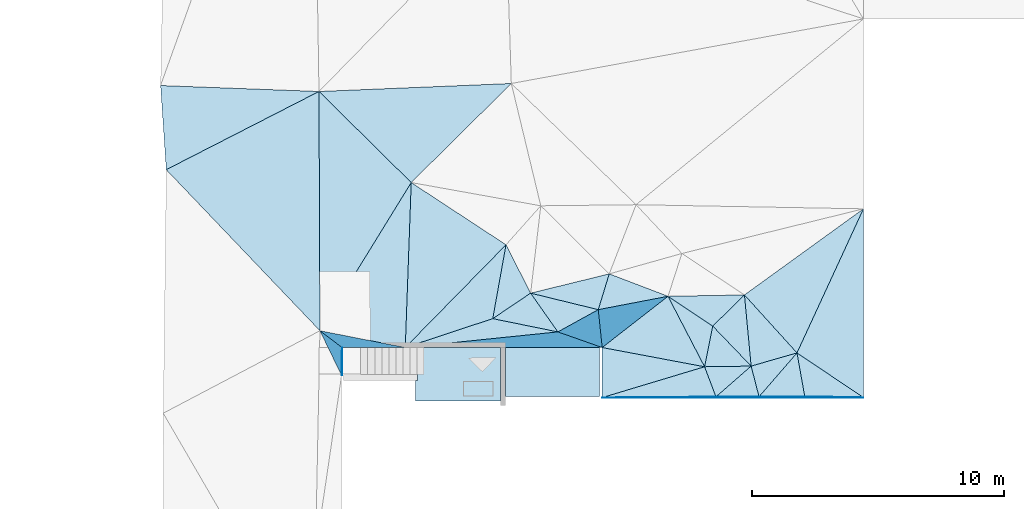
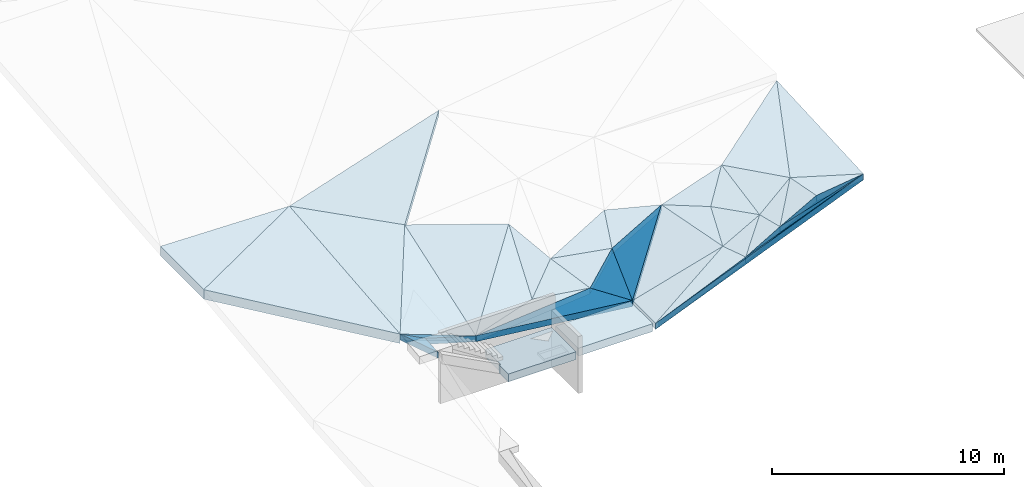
# One storey, part 3 of 23: 39 slabs, 2 elements without a shape of their own.
"""IFC2X3 building model written with IfcOpenShell, lengths in metres."""

from ifc_helpers import new_model, entity, si_unit, converted_unit, direction, frame, origin, place, context, subcontext, project, spatial, polyline, outline, extrude, material, layer, layer_set, layer_usage, type_object, element, aggregate, save


model = new_model("IFC2X3")

# Units and contexts
model_context = context("Model", 3, precision=1e-05, world=origin(), true_north=direction((0.7716245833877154, 0.6360782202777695)))
body_context = subcontext(model_context, "Body", "Model", "MODEL_VIEW")
ifc_project = project(units=[si_unit("LENGTHUNIT", "METRE"), converted_unit("PLANEANGLEUNIT", "DEGREE", entity("IfcPlaneAngleMeasure", 0.017453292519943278), si_unit("PLANEANGLEUNIT", "RADIAN"), dimensions=[0, 0, 0, 0, 0, 0, 0]), si_unit("AREAUNIT", "SQUARE_METRE")], contexts=[model_context])

# Site, building, storey
site_placement = place(None, origin())
site = spatial("IfcSite", under=ifc_project, at=site_placement, Name="Default", CompositionType="ELEMENT")
building_placement = place(site_placement, origin())
building = spatial("IfcBuilding", under=site, at=building_placement, Name="<Building Name>", CompositionType="ELEMENT")
storey_placement = place(building_placement, origin())
storey = spatial("IfcBuildingStorey", under=building, at=storey_placement, Name="00 - HAV", CompositionType="ELEMENT", Elevation=0.0)

# Slabs
slab_1_placement = place(storey_placement, frame((222.4392111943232, 65.35219263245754, 32.77999999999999)))
slab_1 = element("IfcSlab", 1, at=slab_1_placement, inside=storey, Name="Floor:771 Grøntarealer", ObjectType="Floor:771 Grøntarealer", PredefinedType="NOTDEFINED")
ifc_material_1 = material(Name="815 - Terrain, Grøntareal")
ifc_layer_1 = layer(ifc_material_1, 0.02)
ifc_material_2 = material(Name="Site - Soil - Jordlag")
ifc_layer_2 = layer(ifc_material_2, 0.30000000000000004)
ifc_layer_set_1 = layer_set([ifc_layer_1, ifc_layer_2], Name="Floor:771 Grøntarealer")
slab_type_1 = type_object("IfcSlabType", Name="Floor:771 Grøntarealer", PredefinedType="NOTDEFINED")
slab_2_placement = place(slab_1_placement, origin())
slab_2 = element("IfcSlab", 2, at=slab_2_placement, type_object=slab_type_1, material=ifc_layer_set_1, Name="Floor:771 Grøntarealer", ObjectType="Floor:771 Grøntarealer", PredefinedType="NOTDEFINED", context=body_context, shape_type="SweptSolid", body=[
    extrude(outline(polyline([(-0.009645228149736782, -0.5543469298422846), (0.009645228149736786, -0.5543066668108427), (0.009645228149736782, 0.5543469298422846), (-0.009645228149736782, -0.5543469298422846)])), frame((1.1743909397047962, 7.576217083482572, 1.9150000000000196), z_axis=(9.422805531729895e-05, -0.045099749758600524, 0.9989824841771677), x_axis=(0.9999999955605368, 4.249661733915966e-06, -9.413217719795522e-05)), (9.413217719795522e-05, -0.045099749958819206, -0.9989824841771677), 0.3200000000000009),
])
slab_3_placement = place(slab_1_placement, origin())
slab_3 = element("IfcSlab", 3, at=slab_3_placement, type_object=slab_type_1, material=ifc_layer_set_1, Name="Floor:771 Grøntarealer", ObjectType="Floor:771 Grøntarealer", PredefinedType="NOTDEFINED", context=body_context, shape_type="SweptSolid", body=[
    extrude(outline(polyline([(0.431589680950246, -0.8896618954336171), (0.4510015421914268, 0.2190298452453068), (-0.43158968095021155, 0.8896618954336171), (0.431589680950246, -0.8896618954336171)])), frame((0.7358552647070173, 7.908843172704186, 1.9800000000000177), z_axis=(0.11166566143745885, -0.04675689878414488, 0.9926452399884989), x_axis=(0.9937458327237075, 0.0052539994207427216, -0.11154198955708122)), (0.11154198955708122, -0.04705116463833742, -0.9926452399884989), 0.3200000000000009),
])
slab_4_placement = place(slab_1_placement, origin())
slab_4 = element("IfcSlab", 4, at=slab_4_placement, type_object=slab_type_1, material=ifc_layer_set_1, Name="Floor:771 Grøntarealer", ObjectType="Floor:771 Grøntarealer", PredefinedType="NOTDEFINED", context=body_context, shape_type="SweptSolid", body=[
    extrude(outline(polyline([(1.3362653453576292, -3.748541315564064), (1.3365278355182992, 3.748447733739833), (-1.3364665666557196, -1.9985459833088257), (1.3362653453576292, -3.748541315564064)])), frame((20.553473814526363, 9.900695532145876, 4.543739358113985), z_axis=(-0.16506100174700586, -0.05104596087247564, 0.9849615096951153), x_axis=(0.986283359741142, -0.00854287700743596, 0.16483978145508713)), (-0.16483978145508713, -0.051755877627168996, -0.9849615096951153), 0.3200000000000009),
])
slab_5_placement = place(slab_1_placement, origin())
slab_5 = element("IfcSlab", 5, at=slab_5_placement, type_object=slab_type_1, material=ifc_layer_set_1, Name="Floor:771 Grøntarealer", ObjectType="Floor:771 Grøntarealer", PredefinedType="NOTDEFINED", context=body_context, shape_type="SweptSolid", body=[
    extrude(outline(polyline([(2.0714500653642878, 0.6731520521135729), (-0.2566398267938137, 0.3258116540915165), (-2.0714500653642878, -0.6731520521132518), (2.0714500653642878, 0.6731520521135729)])), frame((19.800628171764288, 6.162385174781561, 3.8950000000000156), z_axis=(-0.025396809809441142, -0.9982539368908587, 0.05332991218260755), x_axis=(0.9996774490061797, -0.0253606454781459, 0.0013548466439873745)), (-0.0013548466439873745, -0.9985760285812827, -0.05332991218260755), 0.3200000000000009),
])
slab_6_placement = place(slab_1_placement, origin())
slab_6 = element("IfcSlab", 6, at=slab_6_placement, type_object=slab_type_1, material=ifc_layer_set_1, Name="Floor:771 Grøntarealer", ObjectType="Floor:771 Grøntarealer", PredefinedType="NOTDEFINED", context=body_context, shape_type="SweptSolid", body=[
    extrude(outline(polyline([(2.9262151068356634, 1.1733901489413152), (-1.2163125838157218, -0.17405950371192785), (-2.926215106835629, -1.1733901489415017), (2.9262151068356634, 1.1733901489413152)])), frame((18.945875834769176, 6.160032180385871, 3.3950000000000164), z_axis=(-0.02157064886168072, -0.9989024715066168, 0.04157594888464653), x_axis=(0.9997673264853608, -0.021551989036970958, 0.000897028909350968)), (-0.000897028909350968, -0.9991349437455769, -0.04157594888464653), 0.3200000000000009),
])
slab_7_placement = place(slab_1_placement, origin())
slab_7 = element("IfcSlab", 7, at=slab_7_placement, type_object=slab_type_1, material=ifc_layer_set_1, Name="Floor:771 Grøntarealer", ObjectType="Floor:771 Grøntarealer", PredefinedType="NOTDEFINED", context=body_context, shape_type="SweptSolid", body=[
    extrude(outline(polyline([(5.298450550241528, 1.816489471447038), (-0.6836069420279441, -0.17682568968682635), (-5.2984505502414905, -1.8164894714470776), (5.298450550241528, 1.816489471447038)])), frame((16.68897959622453, 6.144569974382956, 2.445000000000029), z_axis=(-0.2081213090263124, -0.83581550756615, 0.5080334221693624), x_axis=(0.9781030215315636, -0.17784529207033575, 0.10809963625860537)), (-0.10809963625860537, -0.8545270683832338, -0.5080334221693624), 0.3200000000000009),
])
slab_8_placement = place(slab_1_placement, origin())
slab_8 = element("IfcSlab", 8, at=slab_8_placement, type_object=slab_type_1, material=ifc_layer_set_1, Name="Floor:771 Grøntarealer", ObjectType="Floor:771 Grøntarealer", PredefinedType="NOTDEFINED", context=body_context, shape_type="SweptSolid", body=[
    extrude(outline(polyline([(1.6831404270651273, -0.34988578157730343), (-0.9827351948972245, 1.410536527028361), (-0.6705124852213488, -0.31880738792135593), (1.6831404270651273, -0.34988578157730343)])), frame((20.207087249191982, 6.5022760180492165, 4.3285265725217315), z_axis=(-0.14911438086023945, -0.02661108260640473, 0.988461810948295), x_axis=(0.9888199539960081, -0.004012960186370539, 0.14906037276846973)), (-0.14906037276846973, -0.026911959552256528, -0.988461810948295), 0.3200000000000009),
])
slab_9_placement = place(slab_1_placement, origin())
slab_9 = element("IfcSlab", 9, at=slab_9_placement, type_object=slab_type_1, material=ifc_layer_set_1, Name="Floor:771 Grøntarealer", ObjectType="Floor:771 Grøntarealer", PredefinedType="NOTDEFINED", context=body_context, shape_type="SweptSolid", body=[
    extrude(outline(polyline([(1.46041155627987, 2.9789931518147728), (-3.281778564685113, -0.48696156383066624), (-1.1875603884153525, -2.7795726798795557), (1.46041155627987, 2.9789931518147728)])), frame((20.41767825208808, 10.676215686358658, 4.567795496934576), z_axis=(-0.09366882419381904, -0.08487680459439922, 0.9919788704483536), x_axis=(0.9956034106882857, -0.007985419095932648, 0.09332781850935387)), (-0.09332781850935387, -0.08525162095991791, -0.9919788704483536), 0.3200000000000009),
])
slab_10_placement = place(slab_1_placement, origin())
slab_10 = element("IfcSlab", 10, at=slab_10_placement, type_object=slab_type_1, material=ifc_layer_set_1, Name="Floor:771 Grøntarealer", ObjectType="Floor:771 Grøntarealer", PredefinedType="NOTDEFINED", context=body_context, shape_type="SweptSolid", body=[
    extrude(outline(polyline([(3.716813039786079, 2.404010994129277), (-4.1742767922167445, 1.4728819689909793), (-0.38988620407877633, -2.01144188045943), (3.716813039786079, 2.404010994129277)])), frame((4.306218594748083, 16.574037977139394, 3.664973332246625), z_axis=(-0.2543766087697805, -0.27727676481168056, 0.9265042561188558), x_axis=(0.9671052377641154, -0.0729317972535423, 0.24369737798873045)), (-0.24369737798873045, -0.2867079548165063, -0.9265042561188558), 0.32000000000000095),
])
slab_11_placement = place(slab_1_placement, origin())
slab_11 = element("IfcSlab", 11, at=slab_11_placement, type_object=slab_type_1, material=ifc_layer_set_1, Name="Floor:771 Grøntarealer", ObjectType="Floor:771 Grøntarealer", PredefinedType="NOTDEFINED", context=body_context, shape_type="SweptSolid", body=[
    extrude(outline(polyline([(-1.8479828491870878, 4.766144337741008), (-1.8101422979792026, -4.78064402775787), (1.8244774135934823, 1.164039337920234), (-1.8479828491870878, 4.766144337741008)])), frame((2.1109181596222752, 13.53371857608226, 2.7210460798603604), z_axis=(-0.08262201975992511, -0.10471369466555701, 0.9910643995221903), x_axis=(0.9965809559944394, -0.008681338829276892, 0.08216466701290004)), (-0.08216466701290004, -0.10507294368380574, -0.9910643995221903), 0.3200000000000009),
])
slab_12_placement = place(slab_1_placement, origin())
slab_12 = element("IfcSlab", 12, at=slab_12_placement, type_object=slab_type_1, material=ifc_layer_set_1, Name="Floor:771 Grøntarealer", ObjectType="Floor:771 Grøntarealer", PredefinedType="NOTDEFINED", context=body_context, shape_type="SweptSolid", body=[
    extrude(outline(polyline([(-1.762563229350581, 0.24395655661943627), (-0.8494588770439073, -0.3844979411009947), (1.762563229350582, -0.243956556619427), (-1.762563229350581, 0.24395655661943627)])), frame((1.9999736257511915, 8.462626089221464, 1.6350000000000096), z_axis=(0.27814908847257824, 0.18242611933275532, 0.9430555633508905), x_axis=(0.9605379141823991, -0.0528262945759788, -0.27308661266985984)), (0.27308661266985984, 0.18992078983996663, -0.9430555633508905), 0.3200000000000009),
])
slab_13_placement = place(slab_1_placement, origin())
slab_13 = element("IfcSlab", 13, at=slab_13_placement, type_object=slab_type_1, material=ifc_layer_set_1, Name="Floor:771 Grøntarealer", ObjectType="Floor:771 Grøntarealer", PredefinedType="NOTDEFINED", context=body_context, shape_type="SweptSolid", body=[
    extrude(outline(polyline([(-2.541436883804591, -2.778401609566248), (0.9078069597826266, -3.654354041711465), (1.1483921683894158, 3.132172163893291), (-2.541436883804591, -2.778401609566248)])), frame((2.801815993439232, 11.60102626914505, 2.3559480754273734), z_axis=(0.19059096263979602, -0.2657800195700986, 0.9450058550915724), x_axis=(0.9816695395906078, 0.05160114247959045, -0.18347271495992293)), (0.18347271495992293, -0.27074286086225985, -0.9450058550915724), 0.3200000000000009),
])
slab_14_placement = place(slab_1_placement, origin())
slab_14 = element("IfcSlab", 14, at=slab_14_placement, type_object=slab_type_1, material=ifc_layer_set_1, Name="Floor:771 Grøntarealer", ObjectType="Floor:771 Grøntarealer", PredefinedType="NOTDEFINED", context=body_context, shape_type="SweptSolid", body=[
    extrude(outline(polyline([(1.1792845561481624, -0.655676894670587), (0.8272103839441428, 1.0659958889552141), (-0.8896348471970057, -0.7607349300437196), (1.1792845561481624, -0.655676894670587)])), frame((18.50996251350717, 6.894260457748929, 3.720000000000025), z_axis=(-0.4806821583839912, -0.08578295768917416, 0.8726889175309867), x_axis=(0.8768948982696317, -0.047023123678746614, 0.47837659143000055)), (-0.47837659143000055, -0.09782581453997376, -0.8726889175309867), 0.3200000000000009),
])
slab_15_placement = place(slab_1_placement, origin())
slab_15 = element("IfcSlab", 15, at=slab_15_placement, type_object=slab_type_1, material=ifc_layer_set_1, Name="Floor:771 Grøntarealer", ObjectType="Floor:771 Grøntarealer", PredefinedType="NOTDEFINED", context=body_context, shape_type="SweptSolid", body=[
    extrude(outline(polyline([(-0.4483716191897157, -1.2870652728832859), (1.2397250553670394, 0.5662648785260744), (-0.8001206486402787, -0.0836313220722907), (-0.4483716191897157, -1.2870652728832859)])), frame((18.129716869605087, 7.428379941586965, 3.589792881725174), z_axis=(-0.45237354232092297, -0.11690299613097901, 0.8841333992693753), x_axis=(0.8918285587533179, -0.059298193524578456, 0.44847022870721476)), (-0.44847022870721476, -0.13108236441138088, -0.8841333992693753), 0.3200000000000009),
])
slab_16_placement = place(slab_1_placement, origin())
slab_16 = element("IfcSlab", 16, at=slab_16_placement, type_object=slab_type_1, material=ifc_layer_set_1, Name="Floor:771 Grøntarealer", ObjectType="Floor:771 Grøntarealer", PredefinedType="NOTDEFINED", context=body_context, shape_type="SweptSolid", body=[
    extrude(outline(polyline([(1.1072771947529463, -0.3205811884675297), (0.7449472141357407, 0.8797094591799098), (-0.8672370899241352, -0.4745997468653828), (1.1072771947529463, -0.3205811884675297)])), frame((16.771182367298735, 6.578755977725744, 2.72000000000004), z_axis=(-0.5004163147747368, -0.12931827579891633, 0.8560725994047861), x_axis=(0.8657849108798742, -0.07474486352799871, 0.4948026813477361)), (-0.4948026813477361, -0.1493653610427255, -0.8560725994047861), 0.32000000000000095),
])
slab_17_placement = place(slab_1_placement, origin())
slab_17 = element("IfcSlab", 17, at=slab_17_placement, type_object=slab_type_1, material=ifc_layer_set_1, Name="Floor:771 Grøntarealer", ObjectType="Floor:771 Grøntarealer", PredefinedType="NOTDEFINED", context=body_context, shape_type="SweptSolid", body=[
    extrude(outline(polyline([(2.443207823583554, 0.16448477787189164), (1.9544702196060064, 1.3414871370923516), (-2.443207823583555, -0.1644847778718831), (2.443207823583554, 0.16448477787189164)])), frame((13.763445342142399, 6.1588395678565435, 1.270000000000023), z_axis=(-0.3830127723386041, -0.14509036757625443, 0.9122773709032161), x_axis=(0.9237430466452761, -0.06015900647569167, 0.3782587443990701)), (-0.3782587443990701, -0.15706788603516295, -0.9122773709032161), 0.32000000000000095),
])
slab_18_placement = place(slab_1_placement, origin())
slab_18 = element("IfcSlab", 18, at=slab_18_placement, type_object=slab_type_1, material=ifc_layer_set_1, Name="Floor:771 Grøntarealer", ObjectType="Floor:771 Grøntarealer", PredefinedType="NOTDEFINED", context=body_context, shape_type="SweptSolid", body=[
    extrude(outline(polyline([(-0.3875034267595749, -1.1515617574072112), (1.1906056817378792, 0.2423045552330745), (-0.8979370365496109, 0.016195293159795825), (-0.3875034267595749, -1.1515617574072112)])), frame((16.36308034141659, 7.266507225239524, 2.6272723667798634), z_axis=(-0.46657942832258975, -0.17674653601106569, 0.86663965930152), x_axis=(0.8844793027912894, -0.09323711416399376, 0.4571686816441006)), (-0.4571686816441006, -0.19983117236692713, -0.86663965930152), 0.3200000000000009),
])
slab_19_placement = place(slab_1_placement, origin())
slab_19 = element("IfcSlab", 19, at=slab_19_placement, type_object=slab_type_1, material=ifc_layer_set_1, Name="Floor:771 Grøntarealer", ObjectType="Floor:771 Grøntarealer", PredefinedType="NOTDEFINED", context=body_context, shape_type="SweptSolid", body=[
    extrude(outline(polyline([(-2.0340441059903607, -2.243530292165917), (1.4984209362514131, -1.3036212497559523), (2.0340441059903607, 2.243530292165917), (-2.0340441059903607, -2.243530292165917)])), frame((5.691646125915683, 10.168628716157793, 2.210000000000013), z_axis=(0.18570323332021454, -0.5763414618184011, 0.7958296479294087), x_axis=(0.9826058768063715, 0.10892309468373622, -0.1504042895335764)), (0.1504042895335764, -0.5865438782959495, -0.7958296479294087), 0.3200000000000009),
])
slab_20_placement = place(slab_1_placement, origin())
slab_20 = element("IfcSlab", 20, at=slab_20_placement, type_object=slab_type_1, material=ifc_layer_set_1, Name="Floor:771 Grøntarealer", ObjectType="Floor:771 Grøntarealer", PredefinedType="NOTDEFINED", context=body_context, shape_type="SweptSolid", body=[
    extrude(outline(polyline([(-0.4243842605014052, -3.723202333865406), (3.6743445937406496, 0.7358868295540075), (-0.18221795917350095, 3.0632676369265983), (-0.4243842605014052, -3.723202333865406)])), frame((4.106867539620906, 11.704449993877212, 2.246108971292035), z_axis=(-0.22105975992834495, -0.25026815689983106, 0.9426019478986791), x_axis=(0.9752602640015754, -0.05672764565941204, 0.21365718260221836)), (-0.21365718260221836, -0.2566167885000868, -0.9426019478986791), 0.3200000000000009),
])
slab_21_placement = place(slab_1_placement, origin())
slab_21 = element("IfcSlab", 21, at=slab_21_placement, type_object=slab_type_1, material=ifc_layer_set_1, Name="Floor:771 Grøntarealer", ObjectType="Floor:771 Grøntarealer", PredefinedType="NOTDEFINED", context=body_context, shape_type="SweptSolid", body=[
    extrude(outline(polyline([(-2.986760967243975, -0.7011529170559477), (3.0668727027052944, -0.08153719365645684), (0.48426834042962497, 0.4450119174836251), (-2.986760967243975, -0.7011529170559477)])), frame((6.679736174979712, 8.831041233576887, 1.2141338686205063), z_axis=(-0.0021996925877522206, -0.010788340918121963, 0.9999393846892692), x_axis=(0.9999975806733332, -2.373109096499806e-05, 0.002199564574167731)), (-0.002199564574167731, -0.010788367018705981, -0.9999393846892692), 0.3200000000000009),
])
slab_22_placement = place(slab_1_placement, origin())
slab_22 = element("IfcSlab", 22, at=slab_22_placement, type_object=slab_type_1, material=ifc_layer_set_1, Name="Floor:771 Grøntarealer", ObjectType="Floor:771 Grøntarealer", PredefinedType="NOTDEFINED", context=body_context, shape_type="SweptSolid", body=[
    extrude(outline(polyline([(-3.9567511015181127, -0.13485501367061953), (3.878486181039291, -0.7946131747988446), (2.113657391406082, 0.2900508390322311), (-3.9567511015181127, -0.13485501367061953)])), frame((7.638789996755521, 8.439718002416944, 1.106498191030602), z_axis=(0.0743231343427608, -0.7476516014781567, 0.6599190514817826), x_axis=(0.997234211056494, 0.05572192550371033, -0.04918328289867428)), (0.04918328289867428, -0.7497251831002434, -0.6599190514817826), 0.3200000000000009),
])
slab_23_placement = place(slab_1_placement, origin())
slab_23 = element("IfcSlab", 23, at=slab_23_placement, type_object=slab_type_1, material=ifc_layer_set_1, Name="Floor:771 Grøntarealer", ObjectType="Floor:771 Grøntarealer", PredefinedType="NOTDEFINED", context=body_context, shape_type="SweptSolid", body=[
    extrude(outline(polyline([(-0.2682349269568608, -1.7735117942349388), (1.2634911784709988, -0.3823381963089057), (0.2682349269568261, 1.7735117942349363), (-0.2682349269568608, -1.7735117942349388)])), frame((7.427156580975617, 10.741636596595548, 2.2200000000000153), z_axis=(-0.1937290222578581, -0.5289616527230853, 0.8262376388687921), x_axis=(0.9810550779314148, -0.10445409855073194, 0.16315721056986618)), (-0.16315721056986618, -0.5391763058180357, -0.8262376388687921), 0.32000000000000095),
])
slab_24_placement = place(slab_1_placement, origin())
slab_24 = element("IfcSlab", 24, at=slab_24_placement, type_object=slab_type_1, material=ifc_layer_set_1, Name="Floor:771 Grøntarealer", ObjectType="Floor:771 Grøntarealer", PredefinedType="NOTDEFINED", context=body_context, shape_type="SweptSolid", body=[
    extrude(outline(polyline([(-1.431051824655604, -0.596519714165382), (1.1710848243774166, -1.0160243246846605), (0.0830245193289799, 0.8138425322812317), (-1.431051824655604, -0.596519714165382)])), frame((8.584309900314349, 9.645440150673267, 1.7200000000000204), z_axis=(-0.12231484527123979, -0.5998903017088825, 0.7906773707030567), x_axis=(0.9924913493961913, -0.07393060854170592, 0.09744324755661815)), (-0.09744324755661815, -0.6044287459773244, -0.7906773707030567), 0.3200000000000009),
])
slab_25_placement = place(slab_1_placement, origin())
slab_25 = element("IfcSlab", 25, at=slab_25_placement, type_object=slab_type_1, material=ifc_layer_set_1, Name="Floor:771 Grøntarealer", ObjectType="Floor:771 Grøntarealer", PredefinedType="NOTDEFINED", context=body_context, shape_type="SweptSolid", body=[
    extrude(outline(polyline([(2.620249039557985, -0.4249307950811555), (1.0026580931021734, 2.4578339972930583), (-1.909986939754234, -0.8408518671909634), (2.620249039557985, -0.4249307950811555)])), frame((13.21926049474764, 8.36210003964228, 1.4895431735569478), z_axis=(-0.4426111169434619, -0.4965124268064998, 0.7467066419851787), x_axis=(0.8967136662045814, -0.24507479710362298, 0.36856877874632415)), (-0.36856877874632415, -0.5537023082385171, -0.7467066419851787), 0.3200000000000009),
])
slab_26_placement = place(slab_1_placement, origin())
slab_26 = element("IfcSlab", 26, at=slab_26_placement, type_object=slab_type_1, material=ifc_layer_set_1, Name="Floor:771 Grøntarealer", ObjectType="Floor:771 Grøntarealer", PredefinedType="NOTDEFINED", context=body_context, shape_type="SweptSolid", body=[
    extrude(outline(polyline([(-0.8216299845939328, -1.0966991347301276), (1.2236019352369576, -0.6169466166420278), (-0.4620920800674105, 0.7955749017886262), (-0.8216299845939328, -1.0966991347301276)])), frame((16.310977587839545, 8.18143891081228, 3.0338328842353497), z_axis=(-0.4292000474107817, -0.4117574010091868, 0.8038925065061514), x_axis=(0.903209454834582, -0.1956647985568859, 0.3820051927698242)), (-0.3820051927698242, -0.45588251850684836, -0.8038925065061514), 0.3200000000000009),
])
slab_27_placement = place(slab_1_placement, origin())
slab_27 = element("IfcSlab", 27, at=slab_27_placement, type_object=slab_type_1, material=ifc_layer_set_1, Name="Floor:771 Grøntarealer", ObjectType="Floor:771 Grøntarealer", PredefinedType="NOTDEFINED", context=body_context, shape_type="SweptSolid", body=[
    extrude(outline(polyline([(0.7613842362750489, -1.4669789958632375), (1.102298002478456, 0.428738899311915), (-0.7613842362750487, 1.4669789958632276), (0.7613842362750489, -1.4669789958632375)])), frame((14.84361566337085, 8.76457260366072, 2.720000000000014), z_axis=(-0.3043764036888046, -0.4567196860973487, 0.8359199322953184), x_axis=(0.9525518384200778, -0.1459392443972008, 0.26710809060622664)), (-0.26710809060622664, -0.47946963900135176, -0.8359199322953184), 0.3200000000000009),
])
slab_28_placement = place(slab_1_placement, origin())
slab_28 = element("IfcSlab", 28, at=slab_28_placement, type_object=slab_type_1, material=ifc_layer_set_1, Name="Floor:771 Grøntarealer", ObjectType="Floor:771 Grøntarealer", PredefinedType="NOTDEFINED", context=body_context, shape_type="SweptSolid", body=[
    extrude(outline(polyline([(2.4067726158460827, 0.5833522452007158), (-2.0779214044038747, 1.3472553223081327), (-2.0779214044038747, -0.6393673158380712), (2.4067726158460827, 0.5833522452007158)])), frame((13.38877139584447, 6.782744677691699, 1.2003389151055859), z_axis=(-0.42366324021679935, 0.0, 0.9058197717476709), x_axis=(0.9058197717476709, 0.0, 0.42366324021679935)), (-0.42366324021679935, 0.0, -0.9058197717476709), 0.3200000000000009),
])
slab_29_placement = place(slab_1_placement, origin())
slab_29 = element("IfcSlab", 29, at=slab_29_placement, type_object=slab_type_1, material=ifc_layer_set_1, Name="Floor:771 Grøntarealer", ObjectType="Floor:771 Grøntarealer", PredefinedType="NOTDEFINED", context=body_context, shape_type="SweptSolid", body=[
    extrude(outline(polyline([(-1.5735271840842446, -0.5935232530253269), (1.1338569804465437, -1.141696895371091), (1.5735271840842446, 0.5935232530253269), (-1.5735271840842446, -0.5935232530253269)])), frame((10.226321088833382, 10.669591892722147, 2.7200000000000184), z_axis=(-0.13270583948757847, -0.543324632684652, 0.8289677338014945), x_axis=(0.9911554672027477, -0.07274575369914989, 0.11099051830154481)), (-0.11099051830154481, -0.5481729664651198, -0.8289677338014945), 0.3200000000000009),
])
slab_30_placement = place(slab_1_placement, origin())
slab_30 = element("IfcSlab", 30, at=slab_30_placement, type_object=slab_type_1, material=ifc_layer_set_1, Name="Floor:771 Grøntarealer", ObjectType="Floor:771 Grøntarealer", PredefinedType="NOTDEFINED", context=body_context, shape_type="SweptSolid", body=[
    extrude(outline(polyline([(-1.4323383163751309, 0.3840809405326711), (-0.3402422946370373, -1.4433802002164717), (1.2814301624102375, -0.13155846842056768), (-1.4323383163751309, 0.3840809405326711)])), frame((10.083041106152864, 9.853667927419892, 2.150908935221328), z_axis=(-0.1490894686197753, -0.6104025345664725, 0.7779338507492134), x_axis=(0.9888237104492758, -0.09203317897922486, 0.1172926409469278)), (-0.1172926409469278, -0.6173016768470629, -0.7779338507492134), 0.3200000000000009),
])
slab_31_placement = place(slab_1_placement, origin())
slab_31 = element("IfcSlab", 31, at=slab_31_placement, type_object=slab_type_1, material=ifc_layer_set_1, Name="Floor:771 Grøntarealer", ObjectType="Floor:771 Grøntarealer", PredefinedType="NOTDEFINED", context=body_context, shape_type="SweptSolid", body=[
    extrude(outline(polyline([(-1.1673964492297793, -1.195663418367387), (1.657400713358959, -0.21318619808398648), (-0.7227064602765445, 0.538277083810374), (-1.1673964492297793, -1.195663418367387)])), frame((12.494159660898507, 10.51946699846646, 3.0545555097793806), z_axis=(-0.19915980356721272, -0.5228328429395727, 0.8288432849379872), x_axis=(0.9799670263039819, -0.10625590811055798, 0.16844675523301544)), (-0.16844675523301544, -0.5335208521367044, -0.8288432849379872), 0.3200000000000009),
])
slab_32_placement = place(slab_1_placement, origin())
slab_32 = element("IfcSlab", 32, at=slab_32_placement, type_object=slab_type_1, material=ifc_layer_set_1, Name="Floor:771 Grøntarealer", ObjectType="Floor:771 Grøntarealer", PredefinedType="NOTDEFINED", context=body_context, shape_type="SweptSolid", body=[
    extrude(outline(polyline([(0.17541405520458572, 1.4216163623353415), (-1.4296009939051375, 0.08946603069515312), (0.3319565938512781, -1.0005025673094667), (0.17541405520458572, 1.4216163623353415)])), frame((11.17489589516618, 8.74158355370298, 1.1119420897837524), z_axis=(0.04274373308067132, -0.7820024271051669, 0.6218079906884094), x_axis=(0.9990860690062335, 0.03345627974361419, -0.02660270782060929)), (0.02660270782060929, -0.782717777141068, -0.6218079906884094), 0.3200000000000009),
])
slab_33_placement = place(slab_1_placement, origin())
slab_33 = element("IfcSlab", 33, at=slab_33_placement, type_object=slab_type_1, material=ifc_layer_set_1, Name="Floor:771 Grøntarealer", ObjectType="Floor:771 Grøntarealer", PredefinedType="NOTDEFINED", context=body_context, shape_type="SweptSolid", body=[
    extrude(outline(polyline([(-1.46606450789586, 0.65375879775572), (-1.309262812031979, -1.7683433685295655), (1.3092628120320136, 1.7683433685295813), (-1.46606450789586, 0.65375879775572)])), frame((12.812453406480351, 9.146524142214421, 1.7700000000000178), z_axis=(-0.07158073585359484, -0.7852801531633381, 0.6149888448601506), x_axis=(0.9974348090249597, -0.0563554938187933, 0.0441345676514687)), (-0.0441345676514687, -0.7872997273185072, -0.6149888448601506), 0.3200000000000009),
])
slab_34_placement = place(slab_1_placement, origin())
slab_34 = element("IfcSlab", 34, at=slab_34_placement, type_object=slab_type_1, material=ifc_layer_set_1, Name="Floor:771 Grøntarealer", ObjectType="Floor:771 Grøntarealer", PredefinedType="NOTDEFINED", context=body_context, shape_type="SweptSolid", body=[
    extrude(outline(polyline([(-1.5781719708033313, -0.24149260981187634), (0.2699039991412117, -1.3072642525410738), (1.5781719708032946, 0.24149260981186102), (-1.5781719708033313, -0.24149260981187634)])), frame((15.634343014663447, 10.19014079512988, 3.720000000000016), z_axis=(-0.277949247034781, -0.4170654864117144, 0.8653326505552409), x_axis=(0.9605957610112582, -0.12067827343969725, 0.2503847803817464)), (-0.2503847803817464, -0.43417377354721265, -0.8653326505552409), 0.3200000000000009),
])
slab_35_placement = place(slab_1_placement, origin())
slab_35 = element("IfcSlab", 35, at=slab_35_placement, type_object=slab_type_1, material=ifc_layer_set_1, Name="Floor:771 Grøntarealer", ObjectType="Floor:771 Grøntarealer", PredefinedType="NOTDEFINED", context=body_context, shape_type="SweptSolid", body=[
    extrude(outline(polyline([(1.8044520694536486, -0.3556133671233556), (-0.4454791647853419, 1.7843924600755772), (-0.15863534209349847, -1.2097933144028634), (1.8044520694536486, -0.3556133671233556)])), frame((17.563153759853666, 8.496162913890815, 3.7200000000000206), z_axis=(-0.37580252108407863, -0.3405286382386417, 0.8618658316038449), x_axis=(0.9266997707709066, -0.13809383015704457, 0.3495105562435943)), (-0.3495105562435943, -0.36746382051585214, -0.8618658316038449), 0.3200000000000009),
])
slab_36_placement = place(slab_1_placement, origin())
slab_36 = element("IfcSlab", 36, at=slab_36_placement, type_object=slab_type_1, material=ifc_layer_set_1, Name="Floor:771 Grøntarealer", ObjectType="Floor:771 Grøntarealer", PredefinedType="NOTDEFINED", context=body_context, shape_type="SweptSolid", body=[
    extrude(outline(polyline([(0.8800262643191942, -1.427120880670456), (0.595576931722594, 1.5672933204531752), (-0.7492231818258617, 0.05014943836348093), (0.8800262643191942, -1.427120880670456)])), frame((16.59376125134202, 8.83580821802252, 3.4499233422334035), z_axis=(-0.35596125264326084, -0.3414950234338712, 0.8698693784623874), x_axis=(0.9345007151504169, -0.13007908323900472, 0.3313424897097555)), (-0.3313424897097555, -0.3654304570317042, -0.8698693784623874), 0.3200000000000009),
])
aggregate(slab_1, [slab_2, slab_3, slab_4, slab_5, slab_6, slab_7, slab_8, slab_9, slab_10, slab_11, slab_12, slab_13, slab_14, slab_15, slab_16, slab_17, slab_18, slab_19, slab_20, slab_21, slab_22, slab_23, slab_24, slab_25, slab_26, slab_27, slab_28, slab_29, slab_30, slab_31, slab_32, slab_33, slab_34, slab_35, slab_36])

slab_37_placement = place(storey_placement, frame((210.63176110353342, 32.75602782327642, 31.369999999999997)))
slab_37 = element("IfcSlab", 37, at=slab_37_placement, inside=storey, Name="Floor:761 Asfalt - Kjørearealer", ObjectType="Floor:761 Asfalt - Kjørearealer", PredefinedType="NOTDEFINED")
ifc_material_3 = material(Name="Site - Asphalt - Asfaltbetong")
ifc_layer_3 = layer(ifc_material_3, 0.03)
ifc_material_4 = material(Name="A_Default_Building_Part")
ifc_layer_4 = layer(ifc_material_4, 0.07)
ifc_material_5 = material(Name="Site - Gravel - Stabilitet grus")
ifc_layer_5 = layer(ifc_material_5, 0.2)
ifc_material_6 = material(Name="Site - Gravel - Bunnsikringsgrus")
ifc_layer_6 = layer(ifc_material_6, 0.2)
ifc_layer_set_2 = layer_set([ifc_layer_3, ifc_layer_4, ifc_layer_5, ifc_layer_6], Name="Floor:761 Asfalt - Kjørearealer")
slab_type_2 = type_object("IfcSlabType", Name="Floor:761 Asfalt - Kjørearealer", PredefinedType="NOTDEFINED")
slab_38_placement = place(slab_37_placement, origin())
slab_38 = element("IfcSlab", 38, at=slab_38_placement, type_object=slab_type_2, material=ifc_layer_set_2, Name="Floor:761 Asfalt - Kjørearealer", ObjectType="Floor:761 Asfalt - Kjørearealer", PredefinedType="NOTDEFINED", context=body_context, shape_type="SweptSolid", body=[
    extrude(outline(polyline([(-3.2339824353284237, 1.4685330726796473), (-3.008497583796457, -1.8879020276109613), (3.0520184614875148, 1.240075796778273), (-3.2339824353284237, 1.4685330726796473)])), frame((9.024956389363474, 49.656260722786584, 4.312811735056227), z_axis=(-0.013328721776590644, -0.1021796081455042, 0.994676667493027), x_axis=(0.9999111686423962, -0.0013620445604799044, 0.013258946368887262)), (-0.013258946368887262, -0.10218868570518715, -0.994676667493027), 0.49999999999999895),
])
slab_39_placement = place(slab_37_placement, origin())
slab_39 = element("IfcSlab", 39, at=slab_39_placement, type_object=slab_type_2, material=ifc_layer_set_2, Name="Floor:761 Asfalt - Kjørearealer", ObjectType="Floor:761 Asfalt - Kjørearealer", PredefinedType="NOTDEFINED", context=body_context, shape_type="SweptSolid", body=[
    extrude(outline(polyline([(-5.422722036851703, 0.9541639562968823), (0.6754042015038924, -5.464446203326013), (0.637690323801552, 4.0823426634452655), (-5.422722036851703, 0.9541639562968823)])), frame((11.439059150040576, 46.826623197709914, 4.044598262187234), z_axis=(-0.011976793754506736, -0.10478679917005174, 0.9944225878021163), x_axis=(0.9999282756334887, -0.0012550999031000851, 0.011910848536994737)), (-0.011910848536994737, -0.10479431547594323, -0.9944225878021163), 0.49999999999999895),
])
aggregate(slab_37, [slab_38, slab_39])

ifc_material_7 = material(Name="Site - Concrete - Betongbelegg")
ifc_layer_7 = layer(ifc_material_7, 0.08)
ifc_material_8 = material(Name="Site - Sand - Afretningssand")
ifc_layer_8 = layer(ifc_material_8, 0.03)
ifc_layer_9 = layer(ifc_material_5, 0.15000000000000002)
ifc_layer_10 = layer(ifc_material_6, 0.15000000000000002)
ifc_layer_set_3 = layer_set([ifc_layer_7, ifc_layer_8, ifc_layer_9, ifc_layer_10], Name="Floor:761 Betongbelegg - Gangarealer")
ifc_layer_usage_1 = layer_usage(ifc_layer_set_3, "AXIS3", "POSITIVE", 0.0)
slab_type_3 = type_object("IfcSlabType", Name="Floor:761 Betongbelegg - Gangarealer", PredefinedType="FLOOR", material=ifc_layer_set_3)
slab_40_placement = place(storey_placement, origin())
element("IfcSlab", 40, at=slab_40_placement, inside=storey, type_object=slab_type_3, material=ifc_layer_usage_1, Name="Floor:761 Betongbelegg - Gangarealer", ObjectType="Floor:761 Betongbelegg - Gangarealer", PredefinedType="FLOOR", context=body_context, shape_type="SweptSolid", body=[
    extrude(outline(polyline([(-0.9799999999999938, -1.1516761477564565), (-0.15999999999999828, -1.1516761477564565), (-0.15999999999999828, -1.0766477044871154), (1.1399999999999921, -1.0766477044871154), (1.1399999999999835, 2.228323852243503), (-0.9800000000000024, 2.228323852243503), (-0.9799999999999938, -1.1516761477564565)])), frame((227.68482849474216, 72.34219263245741, 33.1), z_axis=(0.0, 0.0, -1.0), x_axis=(0.0, 1.0, 0.0)), (0.0, 0.0, 1.0), 0.4100000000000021),
])
ifc_layer_11 = layer(ifc_material_5, 0.08)
ifc_layer_12 = layer(ifc_material_8, 0.03)
ifc_layer_13 = layer(ifc_material_5, 0.15000000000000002)
ifc_layer_14 = layer(ifc_material_6, 0.15000000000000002)
ifc_layer_set_4 = layer_set([ifc_layer_11, ifc_layer_12, ifc_layer_13, ifc_layer_14], Name="Floor:761 grus - Gangarealer")
ifc_layer_usage_2 = layer_usage(ifc_layer_set_4, "AXIS3", "POSITIVE", 0.0)
slab_type_4 = type_object("IfcSlabType", Name="Floor:761 grus - Gangarealer", PredefinedType="FLOOR", material=ifc_layer_set_4)
slab_41_placement = place(storey_placement, origin())
element("IfcSlab", 41, at=slab_41_placement, inside=storey, type_object=slab_type_4, material=ifc_layer_usage_2, Name="Floor:761 grus - Gangarealer", ObjectType="Floor:761 grus - Gangarealer", PredefinedType="FLOOR", context=body_context, shape_type="SweptSolid", body=[
    extrude(outline(polyline([(-0.9730420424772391, -1.858917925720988), (0.9726142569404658, -1.858917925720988), (0.9726142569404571, 1.858917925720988), (-0.9721864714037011, 1.858917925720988), (-0.9730420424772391, -1.858917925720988)])), frame((231.97207027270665, 72.50957837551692, 33.1), z_axis=(0.0, 0.0, -1.0), x_axis=(0.0, 1.0, 0.0)), (0.0, 0.0, 1.0), 0.4100000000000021),
])

save(model, "model.ifc")
